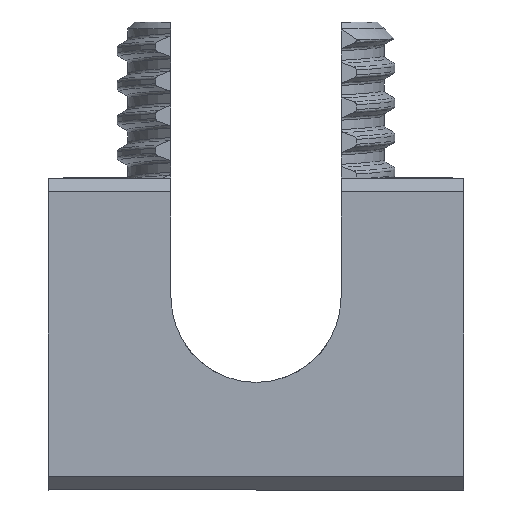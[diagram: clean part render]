
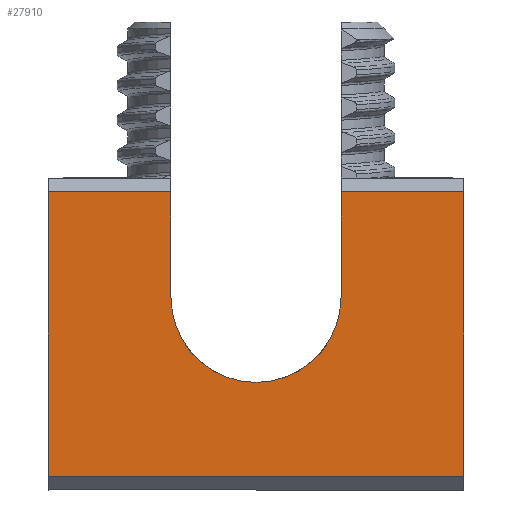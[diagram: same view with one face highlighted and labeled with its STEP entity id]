
A CAD part, front view. The second image highlights one B-rep face of the part: STEP entity #27910.
In plain terms, the highlighted planar face has unit normal (0, -1, 0).
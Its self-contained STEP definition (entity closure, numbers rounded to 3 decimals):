
#499 = VERTEX_POINT ( 'NONE', #6644 ) ;
#828 = ORIENTED_EDGE ( 'NONE', *, *, #8962, .T. ) ;
#843 = VERTEX_POINT ( 'NONE', #12058 ) ;
#1750 = CARTESIAN_POINT ( 'NONE',  ( 0., -35., -20.5 ) ) ;
#2056 = DIRECTION ( 'NONE',  ( 0., 0., -1. ) ) ;
#3119 = ORIENTED_EDGE ( 'NONE', *, *, #12906, .T. ) ;
#4220 = CARTESIAN_POINT ( 'NONE',  ( 0., -35., 20.5 ) ) ;
#4557 = VECTOR ( 'NONE', #29861, 1000. ) ;
#5614 = EDGE_CURVE ( 'NONE', #34782, #35877, #24774, .T. ) ;
#5793 = ORIENTED_EDGE ( 'NONE', *, *, #5614, .T. ) ;
#5849 = VERTEX_POINT ( 'NONE', #4220 ) ;
#6135 = LINE ( 'NONE', #29696, #36876 ) ;
#6322 = CARTESIAN_POINT ( 'NONE',  ( -60., -35., 20.5 ) ) ;
#6644 = CARTESIAN_POINT ( 'NONE',  ( -42.262, -35., 20.5 ) ) ;
#8656 = CARTESIAN_POINT ( 'NONE',  ( -60., -35., -20.5 ) ) ;
#8816 = CIRCLE ( 'NONE', #12958, 12.262 ) ;
#8962 = EDGE_CURVE ( 'NONE', #499, #34782, #22057, .T. ) ;
#9223 = EDGE_CURVE ( 'NONE', #843, #14023, #30130, .T. ) ;
#10832 = LINE ( 'NONE', #34219, #26048 ) ;
#11154 = ORIENTED_EDGE ( 'NONE', *, *, #34661, .T. ) ;
#12058 = CARTESIAN_POINT ( 'NONE',  ( -17.738, -35., 20.5 ) ) ;
#12906 = EDGE_CURVE ( 'NONE', #5849, #843, #10832, .T. ) ;
#12925 = AXIS2_PLACEMENT_3D ( 'NONE', #20283, #16422, #24837 ) ;
#12958 = AXIS2_PLACEMENT_3D ( 'NONE', #29183, #31611, #26544 ) ;
#13426 = PLANE ( 'NONE',  #12925 ) ;
#13828 = ORIENTED_EDGE ( 'NONE', *, *, #22193, .T. ) ;
#13895 = LINE ( 'NONE', #21760, #20705 ) ;
#14023 = VERTEX_POINT ( 'NONE', #24538 ) ;
#14488 = FACE_OUTER_BOUND ( 'NONE', #31187, .T. ) ;
#14660 = CARTESIAN_POINT ( 'NONE',  ( -42.262, -35., 5.272 ) ) ;
#16422 = DIRECTION ( 'NONE',  ( 0., 1., 0. ) ) ;
#16463 = VECTOR ( 'NONE', #32924, 1000. ) ;
#18429 = CARTESIAN_POINT ( 'NONE',  ( -42.262, -35., 22.5 ) ) ;
#18778 = EDGE_CURVE ( 'NONE', #29822, #499, #22149, .T. ) ;
#19323 = DIRECTION ( 'NONE',  ( 0., 0., 1. ) ) ;
#19627 = VERTEX_POINT ( 'NONE', #1750 ) ;
#20283 = CARTESIAN_POINT ( 'NONE',  ( 0., -35., 0. ) ) ;
#20519 = DIRECTION ( 'NONE',  ( 1., 0., 0. ) ) ;
#20705 = VECTOR ( 'NONE', #19323, 1000. ) ;
#21239 = VECTOR ( 'NONE', #2056, 1000. ) ;
#21321 = CARTESIAN_POINT ( 'NONE',  ( -17.738, -35., 5.272 ) ) ;
#21760 = CARTESIAN_POINT ( 'NONE',  ( 0., -35., 22.5 ) ) ;
#21874 = CARTESIAN_POINT ( 'NONE',  ( -60., -35., 20.5 ) ) ;
#22057 = LINE ( 'NONE', #21874, #16463 ) ;
#22149 = LINE ( 'NONE', #18429, #4557 ) ;
#22193 = EDGE_CURVE ( 'NONE', #19627, #5849, #13895, .T. ) ;
#23948 = ORIENTED_EDGE ( 'NONE', *, *, #9223, .T. ) ;
#24538 = CARTESIAN_POINT ( 'NONE',  ( -17.738, -35., 5.272 ) ) ;
#24774 = LINE ( 'NONE', #30043, #30205 ) ;
#24837 = DIRECTION ( 'NONE',  ( 0., 0., 1. ) ) ;
#26048 = VECTOR ( 'NONE', #33843, 1000. ) ;
#26544 = DIRECTION ( 'NONE',  ( 0., 0., 1. ) ) ;
#27910 = ADVANCED_FACE ( 'NONE', ( #14488 ), #13426, .F. ) ;
#29183 = CARTESIAN_POINT ( 'NONE',  ( -30., -35., 5.272 ) ) ;
#29696 = CARTESIAN_POINT ( 'NONE',  ( 0., -35., -20.5 ) ) ;
#29822 = VERTEX_POINT ( 'NONE', #14660 ) ;
#29861 = DIRECTION ( 'NONE',  ( 0., 0., 1. ) ) ;
#30043 = CARTESIAN_POINT ( 'NONE',  ( -60., -35., -22.5 ) ) ;
#30130 = LINE ( 'NONE', #21321, #21239 ) ;
#30205 = VECTOR ( 'NONE', #35469, 1000. ) ;
#31187 = EDGE_LOOP ( 'NONE', ( #5793, #11154, #13828, #3119, #23948, #33717, #36668, #828 ) ) ;
#31611 = DIRECTION ( 'NONE',  ( 0., 1., 0. ) ) ;
#32064 = EDGE_CURVE ( 'NONE', #14023, #29822, #8816, .T. ) ;
#32924 = DIRECTION ( 'NONE',  ( -1., 0., 0. ) ) ;
#33717 = ORIENTED_EDGE ( 'NONE', *, *, #32064, .T. ) ;
#33843 = DIRECTION ( 'NONE',  ( -1., 0., 0. ) ) ;
#34219 = CARTESIAN_POINT ( 'NONE',  ( -17.738, -35., 20.5 ) ) ;
#34661 = EDGE_CURVE ( 'NONE', #35877, #19627, #6135, .T. ) ;
#34782 = VERTEX_POINT ( 'NONE', #6322 ) ;
#35469 = DIRECTION ( 'NONE',  ( 0., 0., -1. ) ) ;
#35877 = VERTEX_POINT ( 'NONE', #8656 ) ;
#36668 = ORIENTED_EDGE ( 'NONE', *, *, #18778, .T. ) ;
#36876 = VECTOR ( 'NONE', #20519, 1000. ) ;
